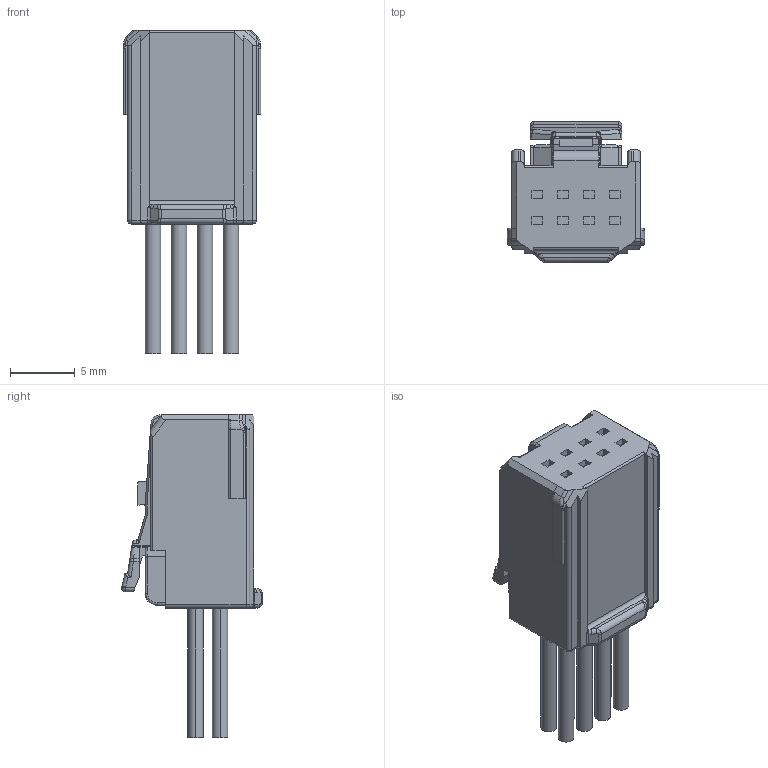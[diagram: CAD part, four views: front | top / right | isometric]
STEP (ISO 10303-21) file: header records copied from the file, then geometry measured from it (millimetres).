
FILE_DESCRIPTION (( 'STEP AP214' ), '1' );
FILE_NAME ('ISHVW 8P FEMALE CONNECTOR.STEP', '2021-03-15T12:19:00', ( 'system_local' ), ( 'Microsoft' ), 'SwSTEP 2.0', 'SolidWorks 2017', '' );
FILE_SCHEMA (( 'AUTOMOTIVE_DESIGN' ));
Length unit declared in the file: millimetre
Products named in the file (1): ISHVW 8P FEMALE CONNECTOR
Bounding box: 10.6 x 10.85 x 24.95 mm (x, y, z)
Volume: 1205.4 mm3; surface area: 1139.6 mm2
Topology: 1 solids, 1 shells, 333 faces, 821 edges, 508 vertices
Faces by surface type: plane 180, cylinder 109, bspline 24, torus 10, sphere 8, cone 2
Entity records: 13552 total; most frequent: CARTESIAN_POINT 2375, ORIENTED_EDGE 1630, DIRECTION 1493, EDGE_CURVE 815, VECTOR 541, LINE 541, VERTEX_POINT 508, AXIS2_PLACEMENT_3D 476
